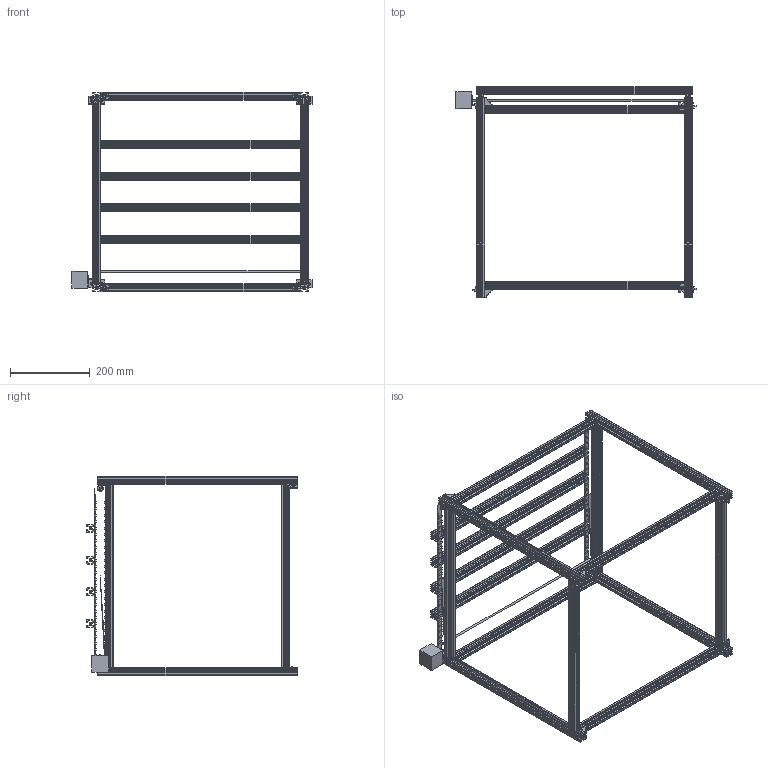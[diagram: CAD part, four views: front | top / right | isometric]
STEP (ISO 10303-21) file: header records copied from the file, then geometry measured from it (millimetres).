
FILE_DESCRIPTION(/* description */ (''),/* implementation_level */ '2;1');
FILE_NAME(/* name */ 'Banco_Mecatronico_Cubo_50x54.step',/* time_stamp */ '2026-11-04T17:36:03+01:00',/* author */ ('Usuario'),/* organization */ (''),/* preprocessor_version */ 'ST-DEVELOPER v20.2',/* originating_system */ 'Autodesk Inventor 2027',/* authorisation */ '');
FILE_SCHEMA (('AUTOMOTIVE_DESIGN { 1 0 10303 214 3 1 1 }'));
Length unit declared in the file: centimetre
Products named in the file (11): Banco_Mecatronico_Cubo_50x54; COMPOUND; COMPOUND_1; COMPOUND_2; COMPOUND_3; Cinta_Transportadora_20mm_L500; Motor_NEMA17; Eje_Distribucion_5mm_L520; Engranaje_Recto_1a1_m1_Z20; Polea_GT2_20T; COMPOUND_4
Assembly tree (73 placements, depth 2):
  Banco_Mecatronico_Cubo_50x54
    COMPOUND  x8
    COMPOUND_1  x4
    COMPOUND_2  x16
    COMPOUND_3  x32
    Cinta_Transportadora_20mm_L500  x2
    Engranaje_Recto_1a1_m1_Z20  x3
    Motor_NEMA17
    Eje_Distribucion_5mm_L520
    Polea_GT2_20T  x2
    COMPOUND_4  x4
Bounding box: 602 x 528 x 500 mm (x, y, z)
Volume: 1624386.2 mm3; surface area: 1519399.9 mm2
Topology: 117 solids, 117 shells, 2236 faces, 5610 edges, 3740 vertices
Faces by surface type: plane 1836, cylinder 400
Full cylindrical faces by diameter (mm): 4.9 x32, 5 x7, 8.5 x64, 11.5 x32, 12.22 x2, 16 x2, 22 x1
Entity records: 14730 total; most frequent: CARTESIAN_POINT 2519, DIRECTION 2386, ORIENTED_EDGE 2364, EDGE_CURVE 1182, LINE 1076, VECTOR 1076, VERTEX_POINT 788, AXIS2_PLACEMENT_3D 655
